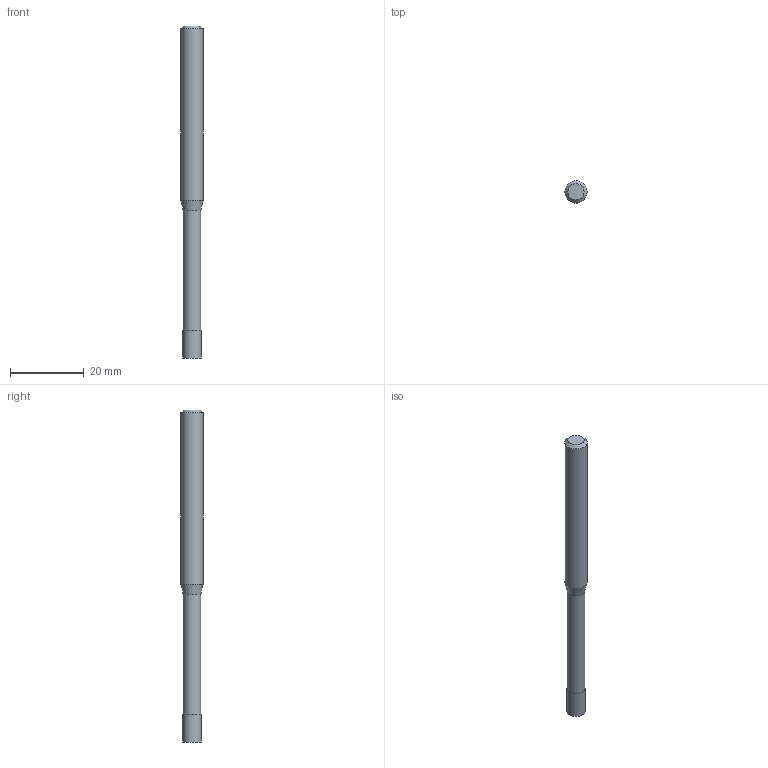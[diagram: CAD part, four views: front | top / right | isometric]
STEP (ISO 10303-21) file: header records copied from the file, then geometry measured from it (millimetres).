
FILE_DESCRIPTION((''),'2;1');
FILE_NAME('C:\Users\nsx150\AppData\Local\Temp\Mastercam 2021\17T8Q8S9EB\TEMP.step','2021-04-21T14:29:02',(''),(''),'STEP Write','Mastercam 2021 ... CNC Software, Inc.','');
FILE_SCHEMA(('AUTOMOTIVE_DESIGN'));
Length unit declared in the file: millimetre
Products named in the file (1): None
Bounding box: 6 x 6 x 90 mm (x, y, z)
Volume: 2128.7 mm3; surface area: 1622.1 mm2
Topology: 2 solids, 2 shells, 9 faces, 12 edges, 7 vertices
Faces by surface type: plane 4, cylinder 3, cone 2
Full cylindrical faces by diameter (mm): 4.8 x1, 5 x1, 6 x1
Entity records: 211 total; most frequent: DIRECTION 36, CARTESIAN_POINT 25, AXIS2_PLACEMENT_3D 18, ORIENTED_EDGE 14, EDGE_LOOP 14, STYLED_ITEM 12, ADVANCED_FACE 9, FACE_BOUND 8
